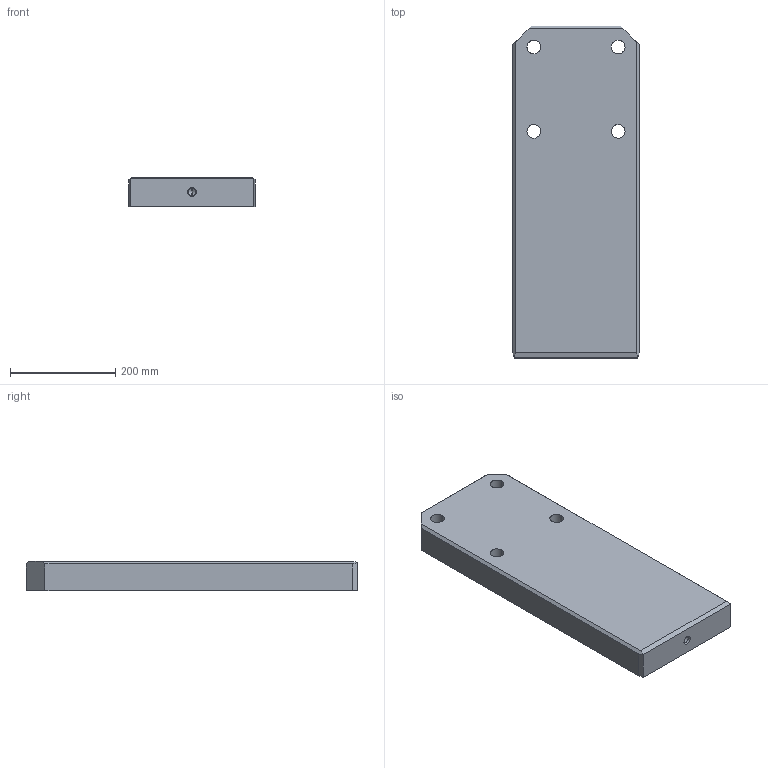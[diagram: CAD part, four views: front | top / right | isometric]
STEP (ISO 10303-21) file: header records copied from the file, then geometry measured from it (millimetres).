
FILE_DESCRIPTION(('CATIA V5 STEP Exchange'),'2;1');
FILE_NAME('C:\Users\borellobunino\Desktop\3D X SITO CF\A927\GSB_OILLESS_G2290524063056\STEP-2.03\A927-240X630X56.stp','2019-07-15T20:09:09+00:00',('none'),('none'),'CATIA Version 5 Release 20 GA (IN-10)','CATIA V5 STEP AP203','none');
FILE_SCHEMA(('CONFIG_CONTROL_DESIGN'));
Length unit declared in the file: millimetre
Products named in the file (1): A927-240X630X56
Bounding box: 240 x 630 x 56 mm (x, y, z)
Volume: 8155819 mm3; surface area: 411072.3 mm2
Topology: 1 solids, 1 shells, 52 faces, 134 edges, 89 vertices
Faces by surface type: cylinder 22, plane 20, cone 10
Entity records: 2048 total; most frequent: CARTESIAN_POINT 784, ORIENTED_EDGE 264, DIRECTION 206, EDGE_CURVE 132, VERTEX_POINT 89, AXIS2_PLACEMENT_3D 87, VECTOR 68, LINE 68
